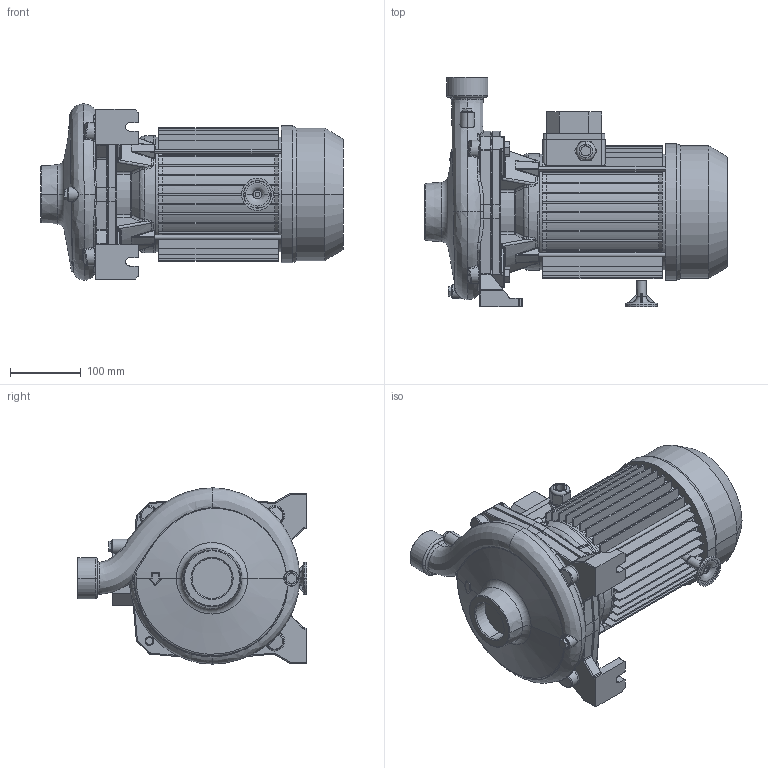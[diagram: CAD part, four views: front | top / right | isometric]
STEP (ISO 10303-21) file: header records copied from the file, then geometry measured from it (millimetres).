
FILE_DESCRIPTION((''),'2;1');
FILE_NAME('CMB_400T_IE2_ASM','2013-02-06T',('Rosa'),('"Ebara Pumps Europe +39.444.706811"'),'PRO/ENGINEER BY PARAMETRIC TECHNOLOGY CORPORATION, 2009360','PRO/ENGINEER BY PARAMETRIC TECHNOLOGY CORPORATION, 2009360','');
FILE_SCHEMA(('AUTOMOTIVE_DESIGN { 1 0 10303 214 1 1 1 1 }'));
Length unit declared in the file: millimetre
Products named in the file (5): MEC_100X130_IE2; 80538; 20529; 72003; CMB_400T_IE2_ASM
Assembly tree (4 placements, depth 2):
  CMB_400T_IE2_ASM
    MEC_100X130_IE2
    80538
    20529
    72003
Bounding box: 426.5 x 323.5 x 248.46 mm (x, y, z)
Volume: 7987677.9 mm3; surface area: 857072.1 mm2
Topology: 4 solids, 10 shells, 1397 faces, 3304 edges, 1954 vertices
Faces by surface type: plane 421, bspline 405, cylinder 303, torus 113, cone 112, sphere 43
Entity records: 70180 total; most frequent: CARTESIAN_POINT 30529, ORIENTED_EDGE 6580, DIRECTION 5587, EDGE_CURVE 3298, PRESENTATION_STYLE_ASSIGNMENT 2432, STYLED_ITEM 2432, CURVE_STYLE 2280, AXIS2_PLACEMENT_3D 2238
